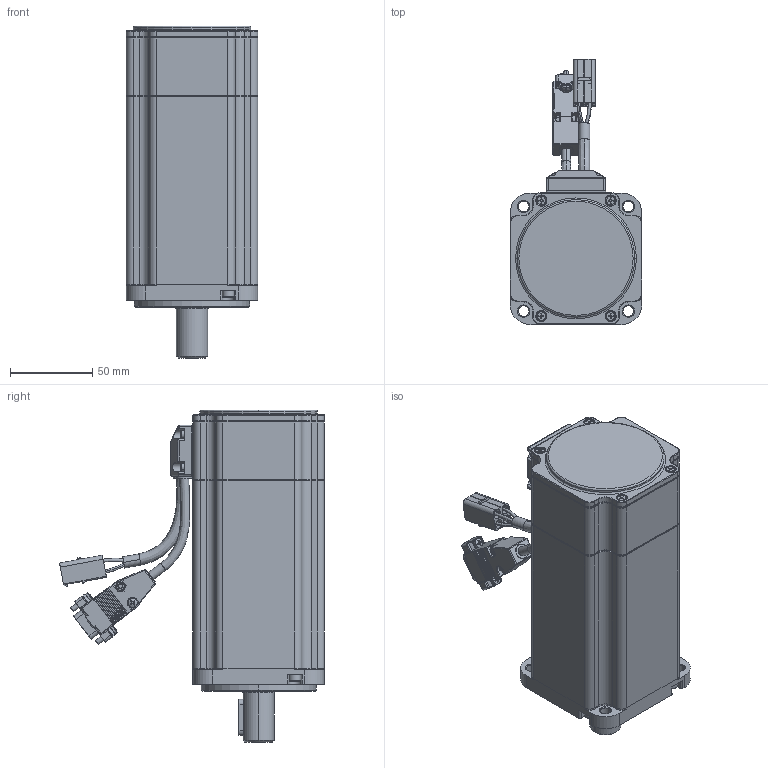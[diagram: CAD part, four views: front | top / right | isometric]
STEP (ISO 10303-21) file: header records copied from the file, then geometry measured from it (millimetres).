
FILE_DESCRIPTION (( 'STEP AP203' ), '1' );
FILE_NAME ('L80-1003026XNL（SMH80-1003026XNL-XX）.STEP', '2016-06-08T01:08:49', ( '微软用户' ), ( '微软中国' ), 'SwSTEP 2.0', 'SolidWorks 2011', '' );
FILE_SCHEMA (( 'CONFIG_CONTROL_DESIGN' ));
Products named in the file (21): L80-1003026XNL（SMH80-1003026XNL-XX）; 嘎殤蚐猾; hexagon socket head cap screws gb_GB_FASTENER_SCREWS_HSHCS M2.5X10-N; 竘盄碟; 竘盄菜; circlips for holes--type a gb_GB_CONNECTING_PIECE_RING_RRH 42; 瑩; cross recessed countersunk head screws gb2_GB_CROSS_SCREWS_TYPE10 M3X8-6.35-H1-N; hexagon socket head cap screws gb_GB_FASTENER_SCREWS_HSHCS M4X35-N; 鎢攫欶綴裔; 躇猾菜; 鎢攫欶; 蛌赽軞傖_Default; deep groove ball bearings gb_Rolling bearings 6004 GB 276-94; 蛌赽郪璃_Default; 蛌粣; 隅赽軞傖_Default; hexagon socket head cap screws gb_GB_FASTENER_SCREWS_HSHCS M4X16-N; ヶ傷裔И璃; 儂褲; ヶ傷裔
Assembly tree (33 placements, depth 4):
  L80-1003026XNL（SMH80-1003026XNL-XX）
    隅赽軞傖_Default
      ヶ傷裔
      hexagon socket head cap screws gb_GB_FASTENER_SCREWS_HSHCS M4X16-N  x4
      ヶ傷裔И璃
      儂褲
    嘎殤蚐猾
    hexagon socket head cap screws gb_GB_FASTENER_SCREWS_HSHCS M2.5X10-N  x4
    竘盄菜
    circlips for holes--type a gb_GB_CONNECTING_PIECE_RING_RRH 42
    瑩
    cross recessed countersunk head screws gb2_GB_CROSS_SCREWS_TYPE10 M3X8-6.35-H1-N  x4
    hexagon socket head cap screws gb_GB_FASTENER_SCREWS_HSHCS M4X35-N  x4
    鎢攫欶綴裔
    竘盄碟
    躇猾菜  x2
    鎢攫欶
    蛌赽軞傖_Default
      蛌赽郪璃_Default
        蛌粣
      deep groove ball bearings gb_Rolling bearings 6004 GB 276-94
Bounding box: 80 x 161.18 x 202 mm (x, y, z)
Volume: 320589 mm3; surface area: 187538 mm2
Topology: 47 solids, 47 shells, 2440 faces, 6413 edges, 3945 vertices
Faces by surface type: cylinder 999, plane 905, cone 165, sphere 125, torus 124, bspline 122
Entity records: 71971 total; most frequent: CARTESIAN_POINT 18850, DIRECTION 10737, ORIENTED_EDGE 10600, EDGE_CURVE 5300, AXIS2_PLACEMENT_3D 4079, VERTEX_POINT 3342, VECTOR 2579, LINE 2579
